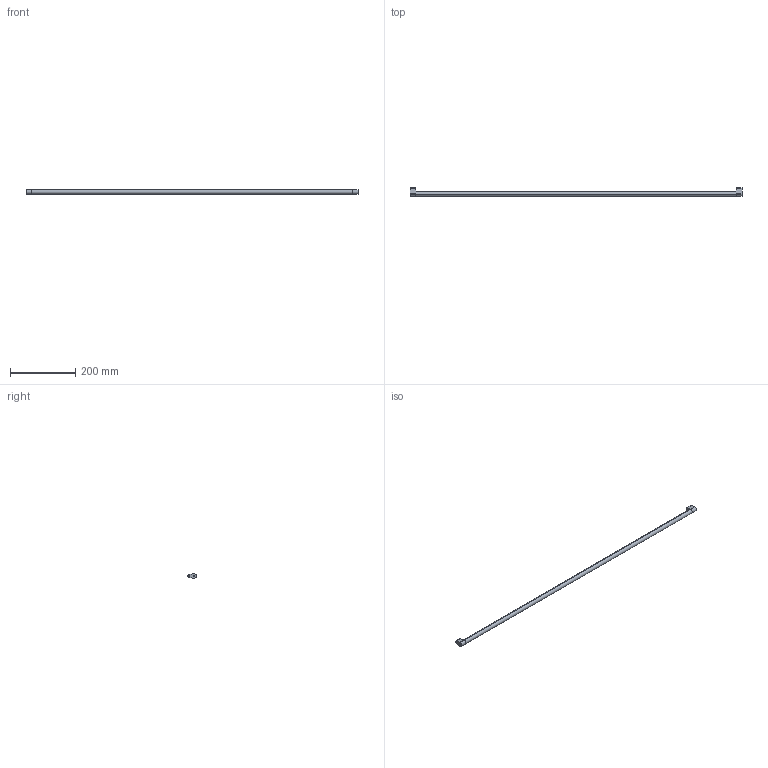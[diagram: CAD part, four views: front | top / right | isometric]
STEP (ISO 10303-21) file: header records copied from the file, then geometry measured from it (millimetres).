
FILE_DESCRIPTION (( 'STEP AP214' ), '1' );
FILE_NAME ('_Synchronisationseinheit Nova Pro KAB1100_S16.step', '2010-07-08T13:58:36', ( 'grass' ), ( '' ), 'SwSTEP 2.0', 'SolidWorks 2010', '' );
FILE_SCHEMA (( 'AUTOMOTIVE_DESIGN' ));
Length unit declared in the file: millimetre
Products named in the file (1): _Synchronisationseinheit Nova Pro KAB1100_S16
Bounding box: 1015 x 26.5 x 14 mm (x, y, z)
Volume: 159933.9 mm3; surface area: 47489 mm2
Topology: 3 solids, 3 shells, 36 faces, 78 edges, 52 vertices
Faces by surface type: cylinder 18, plane 18
Entity records: 1050 total; most frequent: DIRECTION 188, CARTESIAN_POINT 167, ORIENTED_EDGE 156, EDGE_CURVE 78, AXIS2_PLACEMENT_3D 73, VERTEX_POINT 52, VECTOR 42, LINE 42
